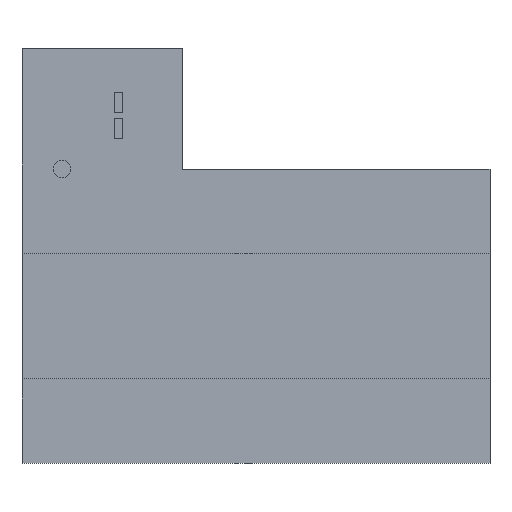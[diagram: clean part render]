
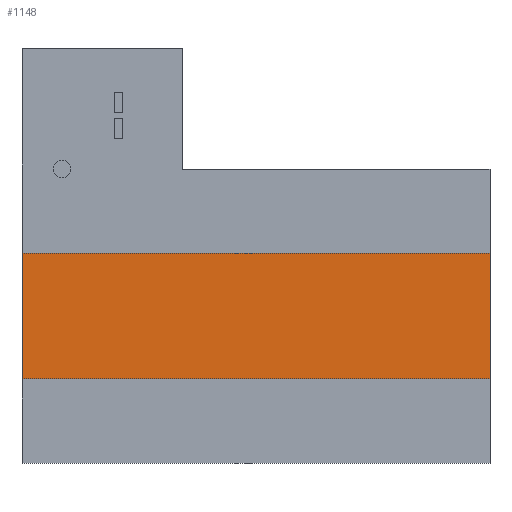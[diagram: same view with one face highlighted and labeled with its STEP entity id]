
A CAD part, top view. The second image highlights one B-rep face of the part: STEP entity #1148.
In plain terms, the highlighted planar face has unit normal (0, 0, 1).
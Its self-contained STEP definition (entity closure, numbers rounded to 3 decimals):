
#128 = PLANE('',#129);
#129 = AXIS2_PLACEMENT_3D('',#130,#131,#132);
#130 = CARTESIAN_POINT('',(12.,11.,6.2));
#131 = DIRECTION('',(1.,0.,0.));
#132 = DIRECTION('',(0.,0.,-1.));
#182 = PLANE('',#183);
#183 = AXIS2_PLACEMENT_3D('',#184,#185,#186);
#184 = CARTESIAN_POINT('',(-23.,11.,6.2));
#185 = DIRECTION('',(1.,0.,0.));
#186 = DIRECTION('',(0.,0.,-1.));
#422 = VERTEX_POINT('',#423);
#423 = CARTESIAN_POINT('',(12.,7.3,3.));
#436 = PLANE('',#437);
#437 = AXIS2_PLACEMENT_3D('',#438,#439,#440);
#438 = CARTESIAN_POINT('',(-31.,7.3,3.));
#439 = DIRECTION('',(0.,-1.,0.));
#440 = DIRECTION('',(0.,0.,1.));
#448 = EDGE_CURVE('',#422,#449,#451,.T.);
#449 = VERTEX_POINT('',#450);
#450 = CARTESIAN_POINT('',(12.,-7.3,3.));
#451 = SURFACE_CURVE('',#452,(#456,#462),.PCURVE_S1.);
#452 = LINE('',#453,#454);
#453 = CARTESIAN_POINT('',(12.,1.85,3.));
#454 = VECTOR('',#455,1.);
#455 = DIRECTION('',(0.,-1.,0.));
#456 = PCURVE('',#128,#457);
#457 = DEFINITIONAL_REPRESENTATION('',(#458),#461);
#458 = B_SPLINE_CURVE_WITH_KNOTS('',1,(#459,#460),.UNSPECIFIED.,.F.,.F.,
  (2,2),(-5.45,9.15),.PIECEWISE_BEZIER_KNOTS.);
#459 = CARTESIAN_POINT('',(3.2,-3.7));
#460 = CARTESIAN_POINT('',(3.2,-18.3));
#461 = ( GEOMETRIC_REPRESENTATION_CONTEXT(2) 
PARAMETRIC_REPRESENTATION_CONTEXT() REPRESENTATION_CONTEXT('2D SPACE',''
  ) );
#462 = PCURVE('',#463,#468);
#463 = PLANE('',#464);
#464 = AXIS2_PLACEMENT_3D('',#465,#466,#467);
#465 = CARTESIAN_POINT('',(-31.,-7.3,3.));
#466 = DIRECTION('',(0.,0.,1.));
#467 = DIRECTION('',(0.,1.,0.));
#468 = DEFINITIONAL_REPRESENTATION('',(#469),#473);
#469 = LINE('',#470,#471);
#470 = CARTESIAN_POINT('',(9.15,-43.));
#471 = VECTOR('',#472,1.);
#472 = DIRECTION('',(-1.,-0.));
#473 = ( GEOMETRIC_REPRESENTATION_CONTEXT(2) 
PARAMETRIC_REPRESENTATION_CONTEXT() REPRESENTATION_CONTEXT('2D SPACE',''
  ) );
#490 = PLANE('',#491);
#491 = AXIS2_PLACEMENT_3D('',#492,#493,#494);
#492 = CARTESIAN_POINT('',(-31.,-7.3,3.6));
#493 = DIRECTION('',(0.,1.,0.));
#494 = DIRECTION('',(0.,0.,-1.));
#678 = VERTEX_POINT('',#679);
#679 = CARTESIAN_POINT('',(-23.,7.3,3.));
#700 = EDGE_CURVE('',#678,#701,#703,.T.);
#701 = VERTEX_POINT('',#702);
#702 = CARTESIAN_POINT('',(-23.,-7.3,3.));
#703 = SURFACE_CURVE('',#704,(#708,#715),.PCURVE_S1.);
#704 = LINE('',#705,#706);
#705 = CARTESIAN_POINT('',(-23.,1.85,3.));
#706 = VECTOR('',#707,1.);
#707 = DIRECTION('',(0.,-1.,0.));
#708 = PCURVE('',#182,#709);
#709 = DEFINITIONAL_REPRESENTATION('',(#710),#714);
#710 = LINE('',#711,#712);
#711 = CARTESIAN_POINT('',(3.2,-9.15));
#712 = VECTOR('',#713,1.);
#713 = DIRECTION('',(0.,-1.));
#714 = ( GEOMETRIC_REPRESENTATION_CONTEXT(2) 
PARAMETRIC_REPRESENTATION_CONTEXT() REPRESENTATION_CONTEXT('2D SPACE',''
  ) );
#715 = PCURVE('',#463,#716);
#716 = DEFINITIONAL_REPRESENTATION('',(#717),#721);
#717 = LINE('',#718,#719);
#718 = CARTESIAN_POINT('',(9.15,-8.));
#719 = VECTOR('',#720,1.);
#720 = DIRECTION('',(-1.,-0.));
#721 = ( GEOMETRIC_REPRESENTATION_CONTEXT(2) 
PARAMETRIC_REPRESENTATION_CONTEXT() REPRESENTATION_CONTEXT('2D SPACE',''
  ) );
#1127 = EDGE_CURVE('',#449,#701,#1128,.T.);
#1128 = SURFACE_CURVE('',#1129,(#1133,#1140),.PCURVE_S1.);
#1129 = LINE('',#1130,#1131);
#1130 = CARTESIAN_POINT('',(12.,-7.3,3.));
#1131 = VECTOR('',#1132,1.);
#1132 = DIRECTION('',(-1.,-0.,0.));
#1133 = PCURVE('',#490,#1134);
#1134 = DEFINITIONAL_REPRESENTATION('',(#1135),#1139);
#1135 = LINE('',#1136,#1137);
#1136 = CARTESIAN_POINT('',(0.6,-43.));
#1137 = VECTOR('',#1138,1.);
#1138 = DIRECTION('',(0.,1.));
#1139 = ( GEOMETRIC_REPRESENTATION_CONTEXT(2) 
PARAMETRIC_REPRESENTATION_CONTEXT() REPRESENTATION_CONTEXT('2D SPACE',''
  ) );
#1140 = PCURVE('',#463,#1141);
#1141 = DEFINITIONAL_REPRESENTATION('',(#1142),#1146);
#1142 = LINE('',#1143,#1144);
#1143 = CARTESIAN_POINT('',(0.,-43.));
#1144 = VECTOR('',#1145,1.);
#1145 = DIRECTION('',(0.,1.));
#1146 = ( GEOMETRIC_REPRESENTATION_CONTEXT(2) 
PARAMETRIC_REPRESENTATION_CONTEXT() REPRESENTATION_CONTEXT('2D SPACE',''
  ) );
#1148 = ADVANCED_FACE('',(#1149),#463,.T.);
#1149 = FACE_BOUND('',#1150,.T.);
#1150 = EDGE_LOOP('',(#1151,#1152,#1153,#1174));
#1151 = ORIENTED_EDGE('',*,*,#1127,.F.);
#1152 = ORIENTED_EDGE('',*,*,#448,.F.);
#1153 = ORIENTED_EDGE('',*,*,#1154,.T.);
#1154 = EDGE_CURVE('',#422,#678,#1155,.T.);
#1155 = SURFACE_CURVE('',#1156,(#1160,#1167),.PCURVE_S1.);
#1156 = LINE('',#1157,#1158);
#1157 = CARTESIAN_POINT('',(12.,7.3,3.));
#1158 = VECTOR('',#1159,1.);
#1159 = DIRECTION('',(-1.,-0.,0.));
#1160 = PCURVE('',#463,#1161);
#1161 = DEFINITIONAL_REPRESENTATION('',(#1162),#1166);
#1162 = LINE('',#1163,#1164);
#1163 = CARTESIAN_POINT('',(14.6,-43.));
#1164 = VECTOR('',#1165,1.);
#1165 = DIRECTION('',(0.,1.));
#1166 = ( GEOMETRIC_REPRESENTATION_CONTEXT(2) 
PARAMETRIC_REPRESENTATION_CONTEXT() REPRESENTATION_CONTEXT('2D SPACE',''
  ) );
#1167 = PCURVE('',#436,#1168);
#1168 = DEFINITIONAL_REPRESENTATION('',(#1169),#1173);
#1169 = LINE('',#1170,#1171);
#1170 = CARTESIAN_POINT('',(0.,-43.));
#1171 = VECTOR('',#1172,1.);
#1172 = DIRECTION('',(0.,1.));
#1173 = ( GEOMETRIC_REPRESENTATION_CONTEXT(2) 
PARAMETRIC_REPRESENTATION_CONTEXT() REPRESENTATION_CONTEXT('2D SPACE',''
  ) );
#1174 = ORIENTED_EDGE('',*,*,#700,.T.);
